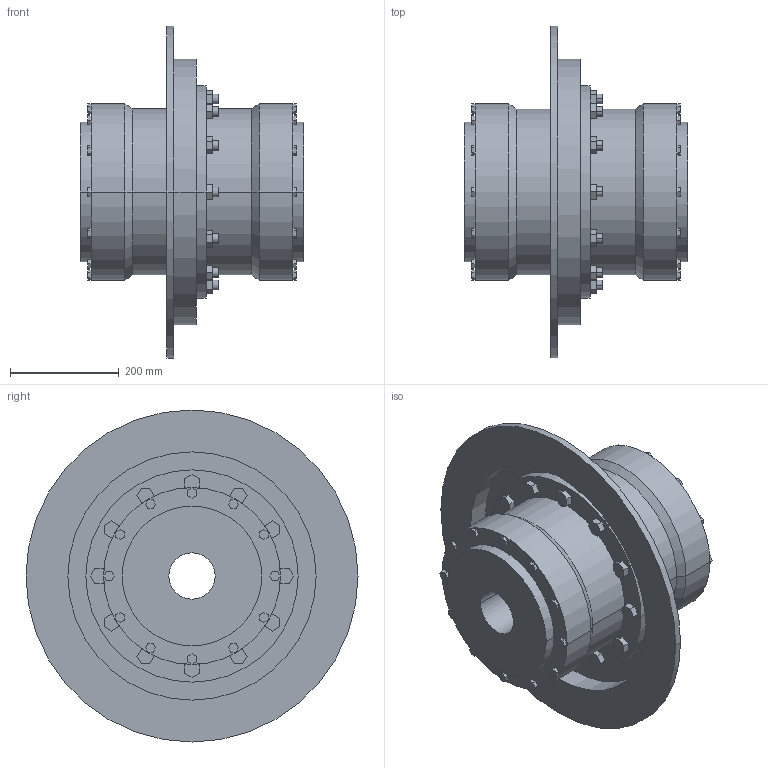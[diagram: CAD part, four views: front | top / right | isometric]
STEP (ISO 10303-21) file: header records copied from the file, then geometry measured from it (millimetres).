
FILE_DESCRIPTION((''),'2;1');
FILE_NAME('A19101700-0_ASM','2018-11-08T',('AB_Roschiwal'),('RENK AG'),'PRO/ENGINEER BY PARAMETRIC TECHNOLOGY CORPORATION, 2015440','PRO/ENGINEER BY PARAMETRIC TECHNOLOGY CORPORATION, 2015440','');
FILE_SCHEMA(('CONFIG_CONTROL_DESIGN'));
Length unit declared in the file: millimetre
Products named in the file (4): SBKD160_GEHAEUSE; SBKD160_NABE; SBKD160_BREMSSCHEIBE; A19101700-0_ASM
Assembly tree (4 placements, depth 2):
  A19101700-0_ASM
    SBKD160_GEHAEUSE
    SBKD160_NABE  x2
    SBKD160_BREMSSCHEIBE
Bounding box: 411 x 610 x 610 mm (x, y, z)
Volume: 31022665.8 mm3; surface area: 2240245.6 mm2
Topology: 4 solids, 4 shells, 470 faces, 1156 edges, 768 vertices
Faces by surface type: plane 370, cylinder 96, cone 4
Entity records: 13604 total; most frequent: CARTESIAN_POINT 2350, ORIENTED_EDGE 2264, DIRECTION 2240, EDGE_CURVE 1132, VECTOR 956, LINE 956, VERTEX_POINT 752, AXIS2_PLACEMENT_3D 642
